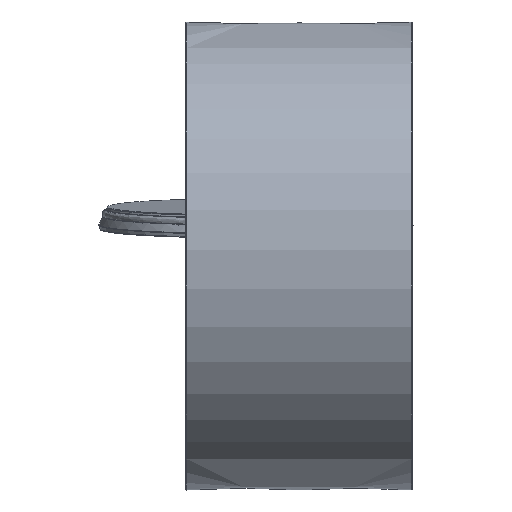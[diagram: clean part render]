
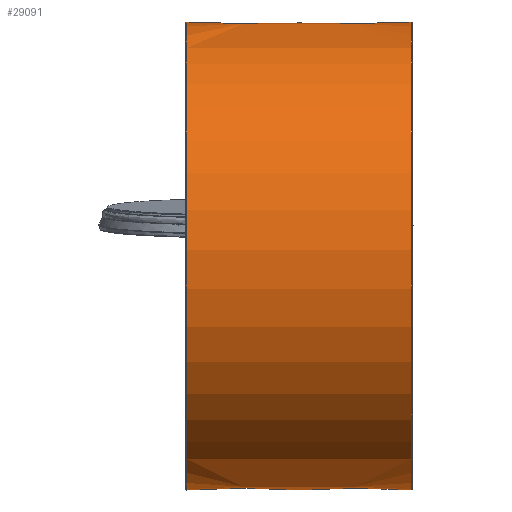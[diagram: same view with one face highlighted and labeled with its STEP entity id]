
A CAD part, left-side view. The second image highlights one B-rep face of the part: STEP entity #29091.
In plain terms, the highlighted free-form (B-spline) face has degree [2, 1] with [7, 2] control points.
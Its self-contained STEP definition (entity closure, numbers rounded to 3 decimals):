
#27836=CARTESIAN_POINT('V85',(144.5,
   150.,0.0));
#27837=VERTEX_POINT('V85',#27836);
#27861=CARTESIAN_POINT('E131',(144.5,
   150.,0.0));
#27862=CARTESIAN_POINT('E131',(144.5,
   150.,-259.808));
#27863=CARTESIAN_POINT('E131',(144.5,
   -75.,-129.904));
#27864=CARTESIAN_POINT('E131',(144.5,
   -300.,0.));
#27865=CARTESIAN_POINT('E131',(144.5,
   -75.,129.904));
#27866=CARTESIAN_POINT('E131',(144.5,
   150.,259.808));
#27867=CARTESIAN_POINT('E131',(144.5,
   150.,0.0));
#27875=(BOUNDED_CURVE()B_SPLINE_CURVE(2,(#27861,#27862,#27863,
   #27864,#27865,#27866,#27867),.CIRCULAR_ARC.,.T.,.U.)
   B_SPLINE_CURVE_WITH_KNOTS((3,2,2,3),(0.0,3.608,
   7.217,10.825),.UNSPECIFIED.)CURVE()
   GEOMETRIC_REPRESENTATION_ITEM()RATIONAL_B_SPLINE_CURVE((1.0,
   0.5,1.0,0.5,1.0,0.5,1.0)
   )REPRESENTATION_ITEM('E131'));
#27876=EDGE_CURVE('E131',#27837,#27837,#27875,.T.);
#28915=CARTESIAN_POINT('V89',(131.038,
   150.,0.));
#28916=VERTEX_POINT('V89',#28915);
#28917=CARTESIAN_POINT('V3',(131.038,132.5,
   70.312));
#28918=VERTEX_POINT('V3',#28917);
#28919=CARTESIAN_POINT('E139',(131.038,
   150.,0.));
#28920=CARTESIAN_POINT('E139',(131.038,
   150.,37.334));
#28921=CARTESIAN_POINT('E139',(131.038,
   132.5,70.312));
#28929=(BOUNDED_CURVE()B_SPLINE_CURVE(2,(#28919,#28920,#28921),
   .CIRCULAR_ARC.,.F.,.U.)CURVE()GEOMETRIC_REPRESENTATION_ITEM()
   QUASI_UNIFORM_CURVE()RATIONAL_B_SPLINE_CURVE((1.0,
   0.874,0.812))REPRESENTATION_ITEM('E139')
   );
#28930=EDGE_CURVE('E139',#28916,#28918,#28929,.T.);
#28932=CARTESIAN_POINT('V2',(131.038,132.5,
   -70.312));
#28933=VERTEX_POINT('V2',#28932);
#28939=CARTESIAN_POINT('E137',(131.038,
   132.5,-70.312));
#28940=CARTESIAN_POINT('E137',(131.038,150.0,
   -37.334));
#28941=CARTESIAN_POINT('E137',(131.038,
   150.,0.));
#28949=(BOUNDED_CURVE()B_SPLINE_CURVE(2,(#28939,#28940,#28941),
   .CIRCULAR_ARC.,.F.,.U.)CURVE()GEOMETRIC_REPRESENTATION_ITEM()
   QUASI_UNIFORM_CURVE()RATIONAL_B_SPLINE_CURVE((0.812,
   0.874,1.0))REPRESENTATION_ITEM('E137'));
#28950=EDGE_CURVE('E137',#28933,#28916,#28949,.T.);
#28960=CARTESIAN_POINT('V1',(68.962,132.5,
   -70.312));
#28961=VERTEX_POINT('V1',#28960);
#28962=CARTESIAN_POINT('E1',(68.963,132.5,
   -70.312));
#28963=CARTESIAN_POINT('E1',(131.037,132.5,
   -70.312));
#28964=QUASI_UNIFORM_CURVE('E1',1,(#28962,#28963),.POLYLINE_FORM.,
   .F.,.U.);
#28965=EDGE_CURVE('E1',#28961,#28933,#28964,.T.);
#28968=CARTESIAN_POINT('V4',(68.962,132.5,
   70.312));
#28969=VERTEX_POINT('V4',#28968);
#28970=CARTESIAN_POINT('E3',(131.037,132.5,
   70.312));
#28971=CARTESIAN_POINT('E3',(68.963,132.5,
   70.312));
#28972=QUASI_UNIFORM_CURVE('E3',1,(#28970,#28971),.POLYLINE_FORM.,
   .F.,.U.);
#28973=EDGE_CURVE('E3',#28918,#28969,#28972,.T.);
#28997=CARTESIAN_POINT('V88',(68.962,150.,
   0.));
#28998=VERTEX_POINT('V88',#28997);
#28999=CARTESIAN_POINT('E136',(68.962,
   150.,0.));
#29000=CARTESIAN_POINT('E136',(68.962,
   150.,-37.334));
#29001=CARTESIAN_POINT('E136',(68.962,
   132.5,-70.312));
#29009=(BOUNDED_CURVE()B_SPLINE_CURVE(2,(#28999,#29000,#29001),
   .CIRCULAR_ARC.,.F.,.U.)CURVE()GEOMETRIC_REPRESENTATION_ITEM()
   QUASI_UNIFORM_CURVE()RATIONAL_B_SPLINE_CURVE((1.0,
   0.874,0.812))REPRESENTATION_ITEM('E136')
   );
#29010=EDGE_CURVE('E136',#28998,#28961,#29009,.T.);
#29013=CARTESIAN_POINT('E140',(68.962,
   132.5,70.312));
#29014=CARTESIAN_POINT('E140',(68.962,150.0,
   37.334));
#29015=CARTESIAN_POINT('E140',(68.962,
   150.,0.));
#29023=(BOUNDED_CURVE()B_SPLINE_CURVE(2,(#29013,#29014,#29015),
   .CIRCULAR_ARC.,.F.,.U.)CURVE()GEOMETRIC_REPRESENTATION_ITEM()
   QUASI_UNIFORM_CURVE()RATIONAL_B_SPLINE_CURVE((0.812,
   0.874,1.0))REPRESENTATION_ITEM('E140'));
#29024=EDGE_CURVE('E140',#28969,#28998,#29023,.T.);
#29029=CARTESIAN_POINT('F67',(0.5,150.0,0.0));
#29030=CARTESIAN_POINT('F67',(0.5,150.0,
   259.808));
#29031=CARTESIAN_POINT('F67',(0.5,-75.,
   129.904));
#29032=CARTESIAN_POINT('F67',(0.5,-300.,
   0.));
#29033=CARTESIAN_POINT('F67',(0.5,-75.,
   -129.904));
#29034=CARTESIAN_POINT('F67',(0.5,150.,
   -259.808));
#29035=CARTESIAN_POINT('F67',(0.5,150.0,0.0));
#29036=CARTESIAN_POINT('F67',(144.5,
   150.,0.0));
#29037=CARTESIAN_POINT('F67',(144.5,
   150.,259.808));
#29038=CARTESIAN_POINT('F67',(144.5,
   -75.,129.904));
#29039=CARTESIAN_POINT('F67',(144.5,
   -300.,0.));
#29040=CARTESIAN_POINT('F67',(144.5,
   -75.,-129.904));
#29041=CARTESIAN_POINT('F67',(144.5,
   150.,-259.808));
#29042=CARTESIAN_POINT('F67',(144.5,
   150.,0.0));
#29050=(BOUNDED_SURFACE()B_SPLINE_SURFACE(2,1,((#29029,#29036),(
   #29030,#29037),(#29031,#29038),(#29032,#29039),(#29033,
   #29040),(#29034,#29041),(#29035,#29042)),.CYLINDRICAL_SURF.,
   .T.,.F.,.U.)B_SPLINE_SURFACE_WITH_KNOTS((3,2,2,3),(2,2),(0.0,
   3.608,7.217,10.825),(0.0,1.0),
   .UNSPECIFIED.)GEOMETRIC_REPRESENTATION_ITEM()
   RATIONAL_B_SPLINE_SURFACE(((1.0,1.0),(0.5,
   0.5),(1.0,1.0),(0.5,
   0.5),(1.0,1.0),(0.5,
   0.5),(1.0,1.0)))REPRESENTATION_ITEM('F67')SURFACE(
   ));
#29051=ORIENTED_EDGE('E136',*,*,#29010,.F.);
#29052=CARTESIAN_POINT('V86',(0.5,150.0,0.0));
#29053=VERTEX_POINT('V86',#29052);
#29054=CARTESIAN_POINT('E141',(68.962,
   150.,0.0));
#29055=CARTESIAN_POINT('E141',(0.5,150.0,0.0));
#29056=B_SPLINE_CURVE_WITH_KNOTS('E141',1,(#29054,#29055),
   .POLYLINE_FORM.,.F.,.U.,(2,2),(0.525,1.0),
   .UNSPECIFIED.);
#29057=EDGE_CURVE('E141',#28998,#29053,#29056,.T.);
#29058=ORIENTED_EDGE('E141',*,*,#29057,.T.);
#29059=CARTESIAN_POINT('E135',(0.5,150.0,0.0));
#29060=CARTESIAN_POINT('E135',(0.5,150.,
   -259.808));
#29061=CARTESIAN_POINT('E135',(0.5,-75.,
   -129.904));
#29062=CARTESIAN_POINT('E135',(0.5,
   -300.,0.));
#29063=CARTESIAN_POINT('E135',(0.5,-75.,
   129.904));
#29064=CARTESIAN_POINT('E135',(0.5,150.0,
   259.808));
#29065=CARTESIAN_POINT('E135',(0.5,150.0,0.0));
#29073=(BOUNDED_CURVE()B_SPLINE_CURVE(2,(#29059,#29060,#29061,
   #29062,#29063,#29064,#29065),.CIRCULAR_ARC.,.T.,.U.)
   B_SPLINE_CURVE_WITH_KNOTS((3,2,2,3),(0.0,733.622,
   1467.244,2200.867),.UNSPECIFIED.)CURVE()
   GEOMETRIC_REPRESENTATION_ITEM()RATIONAL_B_SPLINE_CURVE((1.0,
   0.5,1.0,0.5,1.0,0.5,1.0)
   )REPRESENTATION_ITEM('E135'));
#29074=EDGE_CURVE('E135',#29053,#29053,#29073,.T.);
#29075=ORIENTED_EDGE('E135',*,*,#29074,.T.);
#29076=ORIENTED_EDGE('E141',*,*,#29057,.F.);
#29077=ORIENTED_EDGE('F68',*,*,#29024,.F.);
#29078=ORIENTED_EDGE('E3',*,*,#28973,.F.);
#29079=ORIENTED_EDGE('E139',*,*,#28930,.F.);
#29080=CARTESIAN_POINT('E138',(144.5,
   150.,0.0));
#29081=CARTESIAN_POINT('E138',(131.038,
   150.,0.0));
#29082=B_SPLINE_CURVE_WITH_KNOTS('E138',1,(#29080,#29081),
   .POLYLINE_FORM.,.F.,.U.,(2,2),(0.0,0.093),
   .UNSPECIFIED.);
#29083=EDGE_CURVE('E138',#27837,#28916,#29082,.T.);
#29084=ORIENTED_EDGE('E138',*,*,#29083,.F.);
#29085=ORIENTED_EDGE('F65',*,*,#27876,.F.);
#29086=ORIENTED_EDGE('E138',*,*,#29083,.T.);
#29087=ORIENTED_EDGE('F69',*,*,#28950,.F.);
#29088=ORIENTED_EDGE('E1',*,*,#28965,.F.);
#29089=EDGE_LOOP('F67',(#29051,#29058,#29075,#29076,#29077,#29078,
   #29079,#29084,#29085,#29086,#29087,#29088));
#29090=FACE_OUTER_BOUND('F67',#29089,.F.);
#29091=ADVANCED_FACE('F67',(#29090),#29050,.T.);
